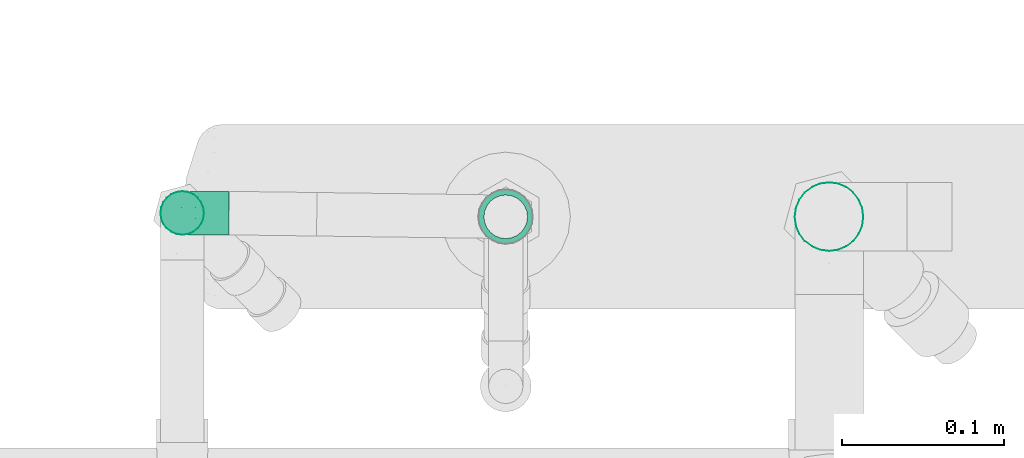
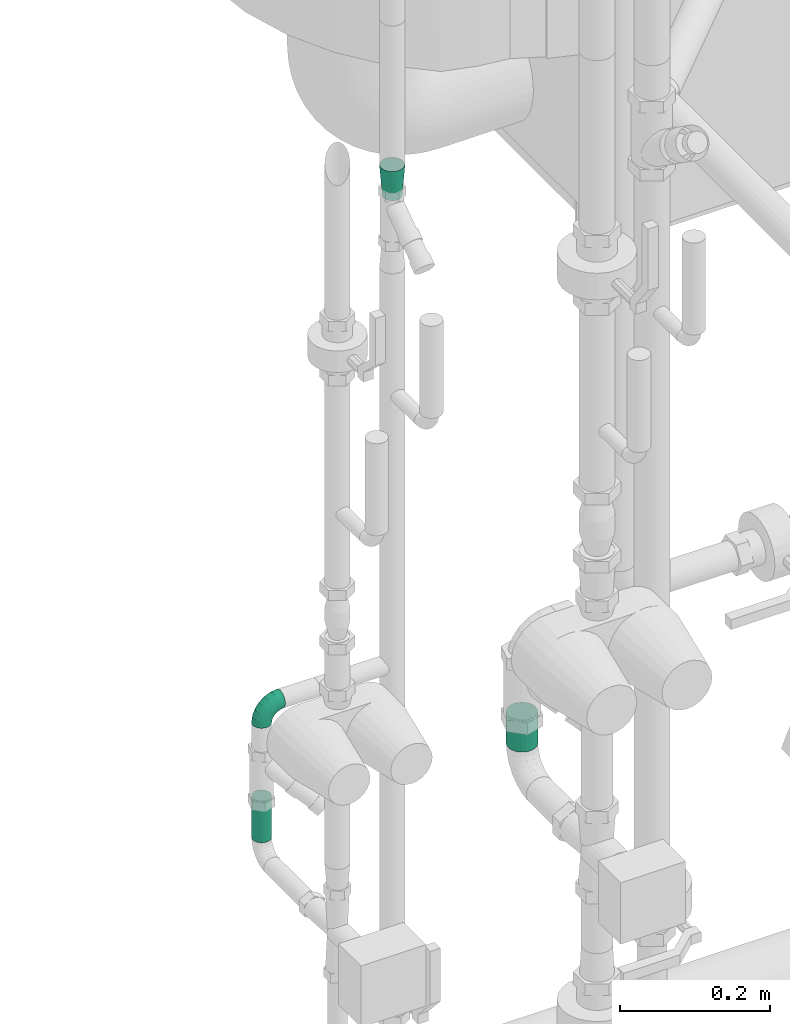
# One storey, part 339 of 374: 3 flow segments, 1 flow fitting.
"""IFC2X3 building model written with IfcOpenShell, lengths in metres."""

from ifc_helpers import new_model, si_unit, direction, origin, place, context, subcontext, project, spatial, open_shell, surface_model, source, transform, mapped, element, save


model = new_model("IFC2X3")

# Units and contexts
model_context = context("Model", 3, precision=1e-05, world=origin(), true_north=direction((-0.4480736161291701, 0.8939966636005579)))
body_context = subcontext(model_context, "Body", "Model", "MODEL_VIEW")
ifc_project = project(units=[si_unit("LENGTHUNIT", "METRE"), si_unit("AREAUNIT", "SQUARE_METRE"), si_unit("VOLUMEUNIT", "CUBIC_METRE"), si_unit("PLANEANGLEUNIT", "RADIAN"), si_unit("THERMODYNAMICTEMPERATUREUNIT", "KELVIN"), si_unit("MASSUNIT", "GRAM", prefix="KILO"), si_unit("TIMEUNIT", "SECOND")], contexts=[model_context])

# Site, building, storey
site_placement = place(None, origin())
site = spatial("IfcSite", under=ifc_project, at=site_placement, Name="Site 1", CompositionType="ELEMENT")
building_placement = place(site_placement, origin())
building = spatial("IfcBuilding", under=site, at=building_placement, Name="Undefined", CompositionType="ELEMENT")
storey_placement = place(building_placement, origin())
storey = spatial("IfcBuildingStorey", under=building, at=storey_placement, Name="Rez de chauss\x8ee", CompositionType="ELEMENT", Elevation=0.0)

# Flow segment
shared_shape_1 = source(origin(), body_context, "Body", "SurfaceModel", [
    surface_model("IfcFaceBasedSurfaceModel", [(0.0, 0.005534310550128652, 0.0), (0.0, 0.0, 0.0), (0.05200554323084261, 0.0, 0.0), (0.05200554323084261, 0.00553431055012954, 0.0), (0.0, -0.00534573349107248, -0.0014323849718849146), (0.05200554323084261, -0.005345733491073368, -0.0014323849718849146), (0.0, -0.010138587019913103, -0.004199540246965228), (0.05200554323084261, -0.010138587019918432, -0.004199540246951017), (0.0, -0.01405193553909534, -0.008112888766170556), (0.05200554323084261, -0.014051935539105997, -0.008112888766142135), (0.0, -0.016819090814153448, -0.012905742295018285), (0.05200554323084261, -0.016819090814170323, -0.012905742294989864), (0.0, -0.018251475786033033, -0.018251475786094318), (0.05200554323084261, -0.018251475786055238, -0.01825147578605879), (0.0, -0.0182514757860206, -0.02378578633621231), (0.05200554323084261, -0.018251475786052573, -0.023785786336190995), (0.0, -0.01681909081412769, -0.029131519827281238), (0.05200554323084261, -0.016819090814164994, -0.029131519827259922), (0.0, -0.014051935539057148, -0.03392437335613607), (0.05200554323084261, -0.01405193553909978, -0.033924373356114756), (0.0, -0.010138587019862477, -0.037837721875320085), (0.05200554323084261, -0.010138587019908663, -0.037837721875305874), (0.0, -0.005345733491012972, -0.040604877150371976), (0.05200554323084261, -0.00534573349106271, -0.04060487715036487), (0.0, 6.4837024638e-14, -0.042037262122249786), (0.05200554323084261, 1.2434497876e-14, -0.042037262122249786), (0.0, 0.005534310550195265, -0.04203726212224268), (0.05200554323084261, 0.005534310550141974, -0.042037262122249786), (0.0, 0.010880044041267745, -0.04060487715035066), (0.05200554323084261, 0.01088004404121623, -0.04060487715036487), (0.0, 0.01567289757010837, -0.03783772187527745), (0.05200554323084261, 0.01567289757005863, -0.03783772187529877), (0.0, 0.019586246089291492, -0.033924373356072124), (0.05200554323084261, 0.01958624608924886, -0.03392437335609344), (0.0, 0.0223534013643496, -0.029131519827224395), (0.05200554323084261, 0.022353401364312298, -0.029131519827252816), (0.0, 0.02378578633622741, -0.023785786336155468), (0.05200554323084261, 0.023785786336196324, -0.02378578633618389), (0.0, 0.023785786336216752, -0.01825147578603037), (0.05200554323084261, 0.023785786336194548, -0.018251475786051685), (0.0, 0.022353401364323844, -0.012905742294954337), (0.05200554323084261, 0.022353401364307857, -0.012905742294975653), (0.0, 0.019586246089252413, -0.008112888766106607), (0.05200554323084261, 0.019586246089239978, -0.008112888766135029), (0.0, 0.015672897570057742, -0.004199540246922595), (0.05200554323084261, 0.015672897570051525, -0.004199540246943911), (0.0, 0.010880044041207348, -0.0014323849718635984), (0.05200554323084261, 0.010880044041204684, -0.0014323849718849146)], [open_shell([[[0, 1, 2, 3]], [[1, 4, 5, 2]], [[4, 6, 7, 5]], [[6, 8, 9, 7]], [[8, 10, 11, 9]], [[10, 12, 13, 11]], [[12, 14, 15, 13]], [[14, 16, 17, 15]], [[16, 18, 19, 17]], [[18, 20, 21, 19]], [[20, 22, 23, 21]], [[22, 24, 25, 23]], [[24, 26, 27, 25]], [[26, 28, 29, 27]], [[28, 30, 31, 29]], [[30, 32, 33, 31]], [[32, 34, 35, 33]], [[34, 36, 37, 35]], [[36, 38, 39, 37]], [[38, 40, 41, 39]], [[40, 42, 43, 41]], [[42, 44, 45, 43]], [[44, 46, 47, 45]], [[46, 0, 3, 47]]])]),
])
flow_segment_1_placement = place(storey_placement, origin())
element("IfcFlowSegment", 1, at=flow_segment_1_placement, inside=storey, Name="Tube acier d'après DIN 2448", ObjectType="Tube acier d'après DIN 2448", context=body_context, shape_type="MappedRepresentation", body=[
    mapped(shared_shape_1, transform((52.47803964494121, 10.923524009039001, 0.8197512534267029), x_axis=(0.0, 0.0, 1.0), y_axis=(0.13052619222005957, -0.9914448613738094, 0.0), z_axis=(0.9914448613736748, 0.13052619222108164, 0.0))),
])

# Flow fitting
shared_shape_2 = source(origin(), body_context, "Body", "SurfaceModel", [
    surface_model("IfcFaceBasedSurfaceModel", [(0.0, 0.0, 0.0), (0.0035111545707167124, 0.0, 0.0), (0.0035111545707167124, 0.0032802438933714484, 0.0), (-1.776356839e-15, 0.0032802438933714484, 7.105427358e-15), (0.006902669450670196, 0.0, -0.0009087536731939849), (0.006902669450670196, 0.0032802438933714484, -0.0009087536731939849), (0.009943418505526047, 0.0, -0.002664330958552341), (0.009943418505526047, 0.0032802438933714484, -0.002664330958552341), (0.01242617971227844, 0.0, -0.00514709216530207), (0.01242617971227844, 0.0032802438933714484, -0.00514709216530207), (0.014181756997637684, 0.0, -0.00818784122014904), (0.014181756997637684, 0.0032802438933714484, -0.00818784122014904), (0.01509051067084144, 0.0, -0.011579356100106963), (0.01509051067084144, 0.0032802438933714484, -0.011579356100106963), (0.015090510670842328, 0.0, -0.015090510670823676), (0.015090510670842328, 0.0032802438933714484, -0.015090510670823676), (0.014181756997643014, 0.0, -0.018482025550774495), (0.014181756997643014, 0.0032802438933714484, -0.018482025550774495), (0.01242617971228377, 0.0, -0.021522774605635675), (0.01242617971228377, 0.0032802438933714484, -0.021522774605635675), (0.009943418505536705, 0.0, -0.024005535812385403), (0.009943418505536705, 0.0032802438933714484, -0.024005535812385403), (0.006902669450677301, 0.0, -0.02576111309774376), (0.006902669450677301, 0.0032802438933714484, -0.02576111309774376), (0.0035111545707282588, 0.0, -0.02666986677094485), (0.0035111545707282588, 0.0032802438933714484, -0.02666986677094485), (0.0, 4.2632564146e-14, -0.026669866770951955), (9.769962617e-15, 0.0032802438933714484, -0.02666986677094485), (-0.003391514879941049, 0.0, -0.025761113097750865), (-0.003391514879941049, 0.0032802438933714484, -0.025761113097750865), (-0.006432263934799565, 0.0, -0.02400553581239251), (-0.006432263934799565, 0.0032802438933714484, -0.02400553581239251), (-0.008915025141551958, 0.0, -0.02152277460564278), (-0.008915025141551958, 0.0032802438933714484, -0.02152277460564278), (-0.010670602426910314, 0.0, -0.018482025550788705), (-0.010670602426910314, 0.0032802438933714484, -0.018482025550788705), (-0.011579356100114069, 0.0, -0.015090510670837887), (-0.011579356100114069, 0.0032802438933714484, -0.015090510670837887), (-0.011579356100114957, 0.0, -0.011579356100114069), (-0.011579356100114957, 0.0032802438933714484, -0.011579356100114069), (-0.010670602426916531, 0.0, -0.008187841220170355), (-0.010670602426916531, 0.0032802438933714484, -0.008187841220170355), (-0.008915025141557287, 0.0, -0.005147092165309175), (-0.008915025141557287, 0.0032802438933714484, -0.005147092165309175), (-0.006432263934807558, 0.0, -0.0026643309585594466), (-0.006432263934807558, 0.0032802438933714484, -0.0026643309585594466), (-0.003391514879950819, 0.0, -0.0009087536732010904), (-0.003391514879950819, 0.0032802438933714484, -0.0009087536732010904), (-0.014950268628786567, 0.045895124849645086, -0.011135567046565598), (-0.01495026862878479, 0.045895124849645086, -0.015534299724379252), (-0.013811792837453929, 0.045895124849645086, -0.006886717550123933), (-0.011612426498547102, 0.045895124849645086, -0.0030773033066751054), (-0.008502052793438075, 0.045895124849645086, 3.3070398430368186e-05), (-0.0046926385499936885, 0.045895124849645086, 0.0022324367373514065), (-0.00044378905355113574, 0.045895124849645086, 0.0033709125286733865), (0.003954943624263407, 0.045895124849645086, 0.0033709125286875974), (0.008203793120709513, 0.045895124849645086, 0.002232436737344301), (0.012013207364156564, 0.045895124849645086, 3.307039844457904e-05), (0.015123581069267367, 0.045895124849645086, -0.003077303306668), (0.017322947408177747, 0.045895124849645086, -0.006886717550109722), (0.018461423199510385, 0.045895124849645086, -0.011135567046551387), (0.018461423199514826, 0.045895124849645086, -0.015534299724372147), (0.017322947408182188, 0.045895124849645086, -0.01978314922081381), (0.015123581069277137, 0.045895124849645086, -0.02359256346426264), (0.012013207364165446, 0.045895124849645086, -0.026702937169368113), (0.00820379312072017, 0.045895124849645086, -0.02890230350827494), (0.00395494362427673, 0.045895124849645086, -0.03004077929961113), (-0.0004437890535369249, 0.045895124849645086, -0.03004077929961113), (-0.004692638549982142, 0.045895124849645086, -0.028902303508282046), (-0.008502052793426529, 0.045895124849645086, -0.026702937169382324), (-0.011612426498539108, 0.045895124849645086, -0.023592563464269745), (-0.013811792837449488, 0.045895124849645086, -0.019783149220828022), (0.0039549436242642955, 0.050000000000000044, 0.003370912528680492), (-0.00044378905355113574, 0.050000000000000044, 0.0033709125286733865), (0.008203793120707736, 0.050000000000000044, 0.002232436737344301), (0.0120132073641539, 0.04589512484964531, 3.3070398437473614e-05), (0.0120132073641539, 0.050000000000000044, 3.3070398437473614e-05), (0.015123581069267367, 0.050000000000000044, -0.003077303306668), (0.017322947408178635, 0.050000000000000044, -0.006886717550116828), (0.018461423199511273, 0.050000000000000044, -0.011135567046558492), (0.018461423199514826, 0.050000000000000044, -0.015534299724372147), (0.017322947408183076, 0.050000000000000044, -0.019783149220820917), (0.015123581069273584, 0.050000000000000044, -0.02359256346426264), (0.012013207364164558, 0.050000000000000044, -0.026702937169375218), (0.008203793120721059, 0.050000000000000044, -0.028902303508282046), (0.003954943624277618, 0.050000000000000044, -0.030040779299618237), (-0.0004437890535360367, 0.050000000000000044, -0.030040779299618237), (-0.004692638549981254, 0.050000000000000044, -0.02890230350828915), (-0.008502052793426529, 0.050000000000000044, -0.026702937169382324), (-0.01161242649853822, 0.050000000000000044, -0.02359256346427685), (-0.013811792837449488, 0.050000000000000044, -0.019783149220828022), (-0.014950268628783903, 0.050000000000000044, -0.015534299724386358), (-0.014950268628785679, 0.050000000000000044, -0.011135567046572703), (-0.013811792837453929, 0.050000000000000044, -0.006886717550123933), (-0.011612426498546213, 0.050000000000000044, -0.003077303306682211), (-0.008502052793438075, 0.050000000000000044, 3.3070398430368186e-05), (-0.0046926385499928, 0.050000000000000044, 0.002232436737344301)], [open_shell([[[0, 1, 2, 3]], [[1, 4, 5, 2]], [[4, 6, 7, 5]], [[6, 8, 9, 7]], [[8, 10, 11, 9]], [[10, 12, 13, 11]], [[12, 14, 15, 13]], [[14, 16, 17, 15]], [[16, 18, 19, 17]], [[18, 20, 21, 19]], [[20, 22, 23, 21]], [[22, 24, 25, 23]], [[24, 26, 27, 25]], [[26, 28, 29, 27]], [[28, 30, 31, 29]], [[30, 32, 33, 31]], [[32, 34, 35, 33]], [[34, 36, 37, 35]], [[36, 38, 39, 37]], [[38, 40, 41, 39]], [[40, 42, 43, 41]], [[42, 44, 45, 43]], [[44, 46, 47, 45]], [[46, 0, 3, 47]], [[37, 39, 48, 49]], [[39, 41, 50, 48]], [[41, 43, 51, 50]], [[43, 45, 52, 51]], [[45, 47, 53, 52]], [[47, 3, 54, 53]], [[3, 2, 55, 54]], [[2, 5, 56, 55]], [[5, 7, 57, 56]], [[7, 9, 58, 57]], [[9, 11, 59, 58]], [[11, 13, 60, 59]], [[13, 15, 61, 60]], [[15, 17, 62, 61]], [[17, 19, 63, 62]], [[19, 21, 64, 63]], [[21, 23, 65, 64]], [[23, 25, 66, 65]], [[25, 27, 67, 66]], [[27, 29, 68, 67]], [[29, 31, 69, 68]], [[31, 33, 70, 69]], [[33, 35, 71, 70]], [[35, 37, 49, 71]], [[54, 55, 72, 73]], [[55, 56, 74, 72]], [[56, 75, 76, 74]], [[75, 58, 77, 76]], [[58, 59, 78, 77]], [[59, 60, 79, 78]], [[60, 61, 80, 79]], [[61, 62, 81, 80]], [[62, 63, 82, 81]], [[63, 64, 83, 82]], [[64, 65, 84, 83]], [[65, 66, 85, 84]], [[66, 67, 86, 85]], [[67, 68, 87, 86]], [[68, 69, 88, 87]], [[69, 70, 89, 88]], [[70, 71, 90, 89]], [[71, 49, 91, 90]], [[49, 48, 92, 91]], [[48, 50, 93, 92]], [[50, 51, 94, 93]], [[51, 52, 95, 94]], [[52, 53, 96, 95]], [[53, 54, 73, 96]]])]),
])
flow_fitting_placement = place(storey_placement, origin())
element("IfcFlowFitting", 2, at=flow_fitting_placement, inside=storey, Name="Réduction", ObjectType="Réduction", context=body_context, shape_type="MappedRepresentation", body=[
    mapped(shared_shape_2, transform((52.271012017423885, 10.918037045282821, 1.782489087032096), x_axis=(-0.13052619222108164, 0.9914448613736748, 0.0), y_axis=(0.0, 0.0, 1.0), z_axis=(0.9914448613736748, 0.13052619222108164, 0.0))),
])

# Flow segments
shared_shape_3 = source(origin(), body_context, "Body", "SurfaceModel", [
    surface_model("IfcFaceBasedSurfaceModel", [(0.0, 0.0035111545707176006, 0.0), (0.0, 0.0, 0.0), (0.06770554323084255, 8.8817842e-16, 0.0), (0.06770554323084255, 0.003511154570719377, 7.105427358e-15), (0.0, -0.003391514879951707, -0.0009087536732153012), (0.06770554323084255, -0.003391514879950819, -0.0009087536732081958), (0.0, -0.006432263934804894, -0.0026643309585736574), (0.06770554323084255, -0.006432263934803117, -0.002664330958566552), (0.0, -0.00891502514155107, -0.005147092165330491), (0.06770554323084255, -0.008915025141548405, -0.005147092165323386), (0.0, -0.010670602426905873, -0.008187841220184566), (0.06770554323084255, -0.010670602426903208, -0.00818784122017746), (0.0, -0.011579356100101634, -0.01157935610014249), (0.06770554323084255, -0.01157935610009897, -0.011579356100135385), (0.0, -0.011579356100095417, -0.015090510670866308), (0.06770554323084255, -0.01157935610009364, -0.015090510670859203), (0.0, -0.010670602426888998, -0.018482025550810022), (0.06770554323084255, -0.010670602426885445, -0.018482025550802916), (0.0, -0.008915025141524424, -0.021522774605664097), (0.06770554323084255, -0.00891502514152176, -0.02152277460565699), (0.0, -0.006432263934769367, -0.02400553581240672), (0.06770554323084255, -0.00643226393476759, -0.024005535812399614), (0.0, -0.0033915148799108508, -0.025761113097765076), (0.06770554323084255, -0.003391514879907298, -0.02576111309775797), (0.0, 4.2632564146e-14, -0.026669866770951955), (0.06770554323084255, 4.5297099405e-14, -0.02666986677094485), (0.0, 0.0035111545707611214, -0.026669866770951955), (0.06770554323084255, 0.003511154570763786, -0.02666986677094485), (0.0, 0.006902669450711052, -0.02576111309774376), (0.06770554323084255, 0.0069026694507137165, -0.025761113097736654), (0.0, 0.00994341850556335, -0.024005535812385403), (0.06770554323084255, 0.00994341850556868, -0.024005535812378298), (0.0, 0.012426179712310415, -0.02152277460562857), (0.06770554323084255, 0.012426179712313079, -0.021522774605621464), (0.0, 0.014181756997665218, -0.018482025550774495), (0.06770554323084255, 0.014181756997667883, -0.01848202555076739), (0.0, 0.015090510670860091, -0.01509051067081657), (0.06770554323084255, 0.015090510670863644, -0.015090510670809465), (0.0, 0.015090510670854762, -0.011579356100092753), (0.06770554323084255, 0.015090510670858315, -0.011579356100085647), (0.0, 0.014181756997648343, -0.00818784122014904), (0.06770554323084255, 0.014181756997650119, -0.008187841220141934), (0.0, 0.012426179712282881, -0.005147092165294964), (0.06770554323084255, 0.012426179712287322, -0.005147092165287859), (0.0, 0.009943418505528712, -0.002664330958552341), (0.06770554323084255, 0.009943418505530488, -0.0026643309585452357), (0.0, 0.006902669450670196, -0.0009087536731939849), (0.06770554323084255, 0.006902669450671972, -0.0009087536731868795)], [open_shell([[[0, 1, 2, 3]], [[1, 4, 5, 2]], [[4, 6, 7, 5]], [[6, 8, 9, 7]], [[8, 10, 11, 9]], [[10, 12, 13, 11]], [[12, 14, 15, 13]], [[14, 16, 17, 15]], [[16, 18, 19, 17]], [[18, 20, 21, 19]], [[20, 22, 23, 21]], [[22, 24, 25, 23]], [[24, 26, 27, 25]], [[26, 28, 29, 27]], [[28, 30, 31, 29]], [[30, 32, 33, 31]], [[32, 34, 35, 33]], [[34, 36, 37, 35]], [[36, 38, 39, 37]], [[38, 40, 41, 39]], [[40, 42, 43, 41]], [[42, 44, 45, 43]], [[44, 46, 47, 45]], [[46, 0, 3, 47]]])]),
])
flow_segment_2_placement = place(storey_placement, origin())
element("IfcFlowSegment", 3, at=flow_segment_2_placement, inside=storey, Name="Tube acier d'après DIN 2448", ObjectType="Tube acier d'après DIN 2448", context=body_context, shape_type="MappedRepresentation", body=[
    mapped(shared_shape_3, transform((52.0445703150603, 10.916844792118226, 0.8053512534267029), x_axis=(0.0, 0.0, 1.0), y_axis=(-0.13052619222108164, 0.9914448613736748, 0.0), z_axis=(-0.9914448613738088, -0.13052619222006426, 0.0))),
])
shared_shape_4 = source(origin(), body_context, "Body", "SurfaceModel", [
    surface_model("IfcFaceBasedSurfaceModel", [(0.011081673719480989, 0.0, 0.0), (0.011021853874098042, 0.0035106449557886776, -8.8817842e-16), (5.981984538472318e-05, 0.003510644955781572, 0.0), (0.0, 0.0, 0.0), (-0.01052869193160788, 0.003877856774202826, -0.002813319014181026), (-0.010704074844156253, 0.00037121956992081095, -0.002844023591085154), (-0.02002209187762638, 0.0045872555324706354, -0.008248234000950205), (-0.020301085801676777, 0.001088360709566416, -0.00833825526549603), (-0.027773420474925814, 0.005590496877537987, -0.01593436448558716), (-0.028137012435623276, 0.002102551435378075, -0.01610827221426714), (-0.03325443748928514, 0.006819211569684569, -0.02534791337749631), (-0.03367784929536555, 0.003344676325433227, -0.025624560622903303), (-0.03609162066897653, 0.008189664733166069, -0.03584736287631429), (-0.03654599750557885, 0.004730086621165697, -0.036238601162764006), (0.01084647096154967, 0.006899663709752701, -0.000901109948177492), (0.00023520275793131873, 0.006899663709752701, -0.000901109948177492), (-0.010014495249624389, 0.007255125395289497, -0.003624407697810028), (-0.019204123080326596, 0.007941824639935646, -0.008885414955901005), (-0.02670742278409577, 0.008912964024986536, -0.016325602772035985), (-0.032013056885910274, 0.010102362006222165, -0.02543793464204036), (-0.03475945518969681, 0.011428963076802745, -0.03560142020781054), (0.010567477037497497, 0.00993610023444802, -0.0026419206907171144), (0.0005141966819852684, 0.009936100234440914, -0.0026419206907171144), (-0.009196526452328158, 0.010272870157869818, -0.005222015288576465), (-0.01790292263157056, 0.010923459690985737, -0.010206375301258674), (-0.025011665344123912, 0.011843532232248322, -0.017255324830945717), (-0.03003830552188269, 0.012970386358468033, -0.025888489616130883), (-0.032640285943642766, 0.014227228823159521, -0.03551753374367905), (0.01020388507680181, 0.012413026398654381, -0.005103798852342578), (0.0008777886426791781, 0.012413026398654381, -0.005103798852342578), (-0.008130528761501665, 0.012725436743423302, -0.007497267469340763), (-0.01620716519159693, 0.013328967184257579, -0.012121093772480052), (-0.022801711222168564, 0.014182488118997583, -0.018660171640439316), (-0.02746475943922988, 0.015227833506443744, -0.02666887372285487), (-0.029878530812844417, 0.01639376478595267, -0.03560142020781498), (0.009780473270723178, 0.014161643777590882, -0.0081189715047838), (0.001301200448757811, 0.014161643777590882, -0.0081189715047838), (-0.006889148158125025, 0.014445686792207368, -0.01029510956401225), (-0.014232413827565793, 0.014994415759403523, -0.014499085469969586), (-0.020228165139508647, 0.01577043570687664, -0.020444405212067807), (-0.024467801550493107, 0.016720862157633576, -0.027725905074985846), (-0.026662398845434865, 0.017780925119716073, -0.035847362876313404), (0.009326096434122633, 0.015062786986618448, -0.011481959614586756), (0.0017555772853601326, 0.015062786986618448, -0.011481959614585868), (-0.005556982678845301, 0.015316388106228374, -0.013424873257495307), (-0.01211324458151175, 0.015806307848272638, -0.017178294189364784), (-0.017466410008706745, 0.016499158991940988, -0.02248643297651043), (-0.02125166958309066, 0.01734772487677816, -0.02898754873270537), (-0.023211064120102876, 0.01829417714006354, -0.03623860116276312), (0.008871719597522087, 0.015055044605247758, -0.01496358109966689), (0.0022099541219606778, 0.015055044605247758, -0.014963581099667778), (-0.004224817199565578, 0.015278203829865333, -0.01667327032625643), (-0.009994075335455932, 0.015709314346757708, -0.01997613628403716), (-0.014704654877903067, 0.01631899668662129, -0.024647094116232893), (-0.01803553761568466, 0.017065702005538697, -0.03036782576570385), (-0.019759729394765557, 0.017898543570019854, -0.036748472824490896), (0.008448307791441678, 0.014138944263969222, -0.018326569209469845), (0.0026333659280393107, 0.014138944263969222, -0.018326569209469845), (-0.002983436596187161, 0.014333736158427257, -0.019818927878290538), (-0.008019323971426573, 0.014710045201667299, -0.022701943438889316), (-0.012131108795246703, 0.015242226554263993, -0.02677914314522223), (-0.01503857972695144, 0.01589401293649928, -0.03177267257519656), (-0.016543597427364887, 0.01662098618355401, -0.03734223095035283), (0.008084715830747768, 0.012376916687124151, -0.021341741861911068), (0.002996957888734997, 0.012376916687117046, -0.021341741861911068), (-0.0019174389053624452, 0.012547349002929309, -0.022647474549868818), (-0.00632356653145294, 0.012876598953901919, -0.025169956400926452), (-0.009921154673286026, 0.013342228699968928, -0.028737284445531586), (-0.012465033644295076, 0.013912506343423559, -0.033106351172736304), (-0.013781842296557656, 0.01454856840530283, -0.03797941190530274), (0.007805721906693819, 0.009889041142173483, -0.02380362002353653), (0.00327595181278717, 0.009889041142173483, -0.02380362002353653), (-0.001099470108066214, 0.010040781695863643, -0.024966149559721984), (-0.005022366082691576, 0.010333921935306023, -0.027211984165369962), (-0.008225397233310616, 0.010748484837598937, -0.030388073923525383), (-0.010490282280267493, 0.01125621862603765, -0.034277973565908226), (-0.011662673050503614, 0.01182252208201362, -0.03861659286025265), (0.007630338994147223, 0.0068448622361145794, -0.025544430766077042), (0.003451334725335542, 0.0068448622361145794, -0.025544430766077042), (-0.0005852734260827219, 0.006984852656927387, -0.02661693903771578), (-0.004204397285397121, 0.0072552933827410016, -0.02868886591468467), (-0.007159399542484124, 0.007637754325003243, -0.03161901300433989), (-0.009248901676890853, 0.008106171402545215, -0.03520769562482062), (-0.010330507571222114, 0.008628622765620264, -0.03921035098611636), (0.0075705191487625, 0.0034518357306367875, -0.026445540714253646), (0.003511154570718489, 0.0034518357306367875, -0.026445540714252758), (-0.0004098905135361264, 0.0035878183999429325, -0.027487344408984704), (-0.003925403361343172, 0.0038505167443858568, -0.02949995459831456), (-0.006795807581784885, 0.0042220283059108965, -0.03234621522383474), (-0.008825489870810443, 0.004677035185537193, -0.03583215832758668), (-0.009876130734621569, 0.0051845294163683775, -0.03972022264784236), (0.007630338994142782, -5.8809225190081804e-05, -0.026445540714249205), (0.003451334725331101, -5.8809225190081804e-05, -0.0264455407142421), (-0.0005852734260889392, 8.118119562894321e-05, -0.027518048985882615), (-0.00420439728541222, 0.00035162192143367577, -0.02958997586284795), (-0.007159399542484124, 0.0007340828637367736, -0.03252012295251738), (-0.009248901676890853, 0.0012024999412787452, -0.036108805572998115), (-0.010330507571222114, 0.0017249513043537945, -0.04011146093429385), (0.007805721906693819, -0.0034478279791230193, -0.02554443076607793), (0.00327595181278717, -0.0034478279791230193, -0.02554443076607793), (-0.001099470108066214, -0.0032960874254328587, -0.026706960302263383), (-0.005022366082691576, -0.003002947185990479, -0.02895279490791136), (-0.008225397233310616, -0.0025883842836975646, -0.03212888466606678), (-0.010490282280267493, -0.002080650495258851, -0.036018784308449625), (-0.011662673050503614, -0.0015143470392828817, -0.04035740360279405), (0.008084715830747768, -0.006484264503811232, -0.023803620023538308), (0.002996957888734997, -0.006484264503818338, -0.023803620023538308), (-0.0019174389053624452, -0.006313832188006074, -0.025109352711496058), (-0.00632356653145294, -0.0059845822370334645, -0.027631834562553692), (-0.009921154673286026, -0.005518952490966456, -0.031199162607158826), (-0.012465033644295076, -0.004948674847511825, -0.035568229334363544), (-0.013781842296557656, -0.0043126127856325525, -0.04044129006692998), (0.008448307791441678, -0.008961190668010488, -0.021341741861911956), (0.0026333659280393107, -0.008961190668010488, -0.021341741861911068), (-0.002983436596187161, -0.008766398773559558, -0.02283410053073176), (-0.008019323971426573, -0.008390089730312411, -0.025717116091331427), (-0.012131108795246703, -0.007857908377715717, -0.02979431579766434), (-0.01503857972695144, -0.00720612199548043, -0.03478784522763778), (-0.016543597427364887, -0.0064791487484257, -0.04035740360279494), (0.008871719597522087, -0.01070980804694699, -0.018326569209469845), (0.0022099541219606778, -0.01070980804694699, -0.018326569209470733), (-0.004224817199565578, -0.010486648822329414, -0.020036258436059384), (-0.009994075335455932, -0.01005553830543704, -0.023339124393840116), (-0.014704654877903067, -0.009445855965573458, -0.02801008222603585), (-0.01803553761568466, -0.00869915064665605, -0.033730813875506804), (-0.019759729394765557, -0.007866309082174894, -0.04011146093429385), (0.009326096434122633, -0.011610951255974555, -0.014963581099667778), (0.0017555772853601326, -0.011610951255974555, -0.014963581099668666), (-0.005556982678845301, -0.01135735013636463, -0.016906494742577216), (-0.01211324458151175, -0.010867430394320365, -0.020659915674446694), (-0.017466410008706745, -0.010174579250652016, -0.025968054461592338), (-0.02125166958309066, -0.009326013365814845, -0.03246917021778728), (-0.023211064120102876, -0.008379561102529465, -0.039720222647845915), (0.009780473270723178, -0.01160320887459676, -0.011481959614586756), (0.001301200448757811, -0.011603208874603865, -0.011481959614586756), (-0.006889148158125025, -0.011319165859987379, -0.013658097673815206), (-0.014232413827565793, -0.010770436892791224, -0.01786207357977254), (-0.020228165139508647, -0.009994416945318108, -0.023807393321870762), (-0.024467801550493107, -0.009043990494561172, -0.0310888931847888), (-0.026662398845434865, -0.007983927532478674, -0.03921035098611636), (0.01020388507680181, -0.010687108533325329, -0.008118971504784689), (0.0008777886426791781, -0.010687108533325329, -0.008118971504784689), (-0.008130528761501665, -0.010374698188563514, -0.010512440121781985), (-0.01620716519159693, -0.009771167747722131, -0.015136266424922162), (-0.022801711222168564, -0.008917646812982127, -0.021675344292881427), (-0.02746475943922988, -0.007872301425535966, -0.02968404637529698), (-0.029878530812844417, -0.006706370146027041, -0.038616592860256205), (0.010567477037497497, -0.008925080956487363, -0.0051037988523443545), (0.0005141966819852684, -0.008925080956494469, -0.0051037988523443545), (-0.009196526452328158, -0.008588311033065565, -0.007683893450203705), (-0.01790292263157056, -0.007937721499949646, -0.012668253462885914), (-0.025011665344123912, -0.007017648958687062, -0.019717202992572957), (-0.03003830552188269, -0.00589079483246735, -0.028350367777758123), (-0.032640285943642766, -0.004633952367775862, -0.03797941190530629), (0.01084647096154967, -0.0064372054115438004, -0.002641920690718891), (0.00023520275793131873, -0.0064372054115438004, -0.002641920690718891), (-0.010014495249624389, -0.006081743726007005, -0.005365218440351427), (-0.019204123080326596, -0.005395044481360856, -0.010626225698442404), (-0.02670742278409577, -0.004423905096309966, -0.018066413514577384), (-0.032013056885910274, -0.0032345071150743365, -0.02717874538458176), (-0.03475945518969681, -0.0019079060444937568, -0.03734223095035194), (0.011021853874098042, -0.003393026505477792, -0.0009011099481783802), (5.981984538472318e-05, -0.0033930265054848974, -0.000901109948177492), (-0.01052869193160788, -0.0030258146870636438, -0.003714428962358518), (-0.02002209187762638, -0.002316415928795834, -0.009149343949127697), (-0.027773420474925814, -0.0013131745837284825, -0.016835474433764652), (-0.03325443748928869, -8.445989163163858e-05, -0.026249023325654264), (-0.03609162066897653, 0.0012859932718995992, -0.036748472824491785)], [open_shell([[[0, 1, 2, 3]], [[3, 2, 4, 5]], [[5, 4, 6, 7]], [[7, 6, 8, 9]], [[9, 8, 10, 11]], [[11, 10, 12, 13]], [[1, 14, 15, 2]], [[2, 15, 16, 4]], [[4, 16, 17, 6]], [[6, 17, 18, 8]], [[8, 18, 19, 10]], [[10, 19, 20, 12]], [[14, 21, 22, 15]], [[15, 22, 23, 16]], [[16, 23, 24, 17]], [[17, 24, 25, 18]], [[18, 25, 26, 19]], [[19, 26, 27, 20]], [[21, 28, 29, 22]], [[22, 29, 30, 23]], [[23, 30, 31, 24]], [[24, 31, 32, 25]], [[25, 32, 33, 26]], [[26, 33, 34, 27]], [[28, 35, 36, 29]], [[29, 36, 37, 30]], [[30, 37, 38, 31]], [[31, 38, 39, 32]], [[32, 39, 40, 33]], [[33, 40, 41, 34]], [[35, 42, 43, 36]], [[36, 43, 44, 37]], [[37, 44, 45, 38]], [[38, 45, 46, 39]], [[39, 46, 47, 40]], [[40, 47, 48, 41]], [[42, 49, 50, 43]], [[43, 50, 51, 44]], [[44, 51, 52, 45]], [[45, 52, 53, 46]], [[46, 53, 54, 47]], [[47, 54, 55, 48]], [[49, 56, 57, 50]], [[50, 57, 58, 51]], [[51, 58, 59, 52]], [[52, 59, 60, 53]], [[53, 60, 61, 54]], [[54, 61, 62, 55]], [[56, 63, 64, 57]], [[57, 64, 65, 58]], [[58, 65, 66, 59]], [[59, 66, 67, 60]], [[60, 67, 68, 61]], [[61, 68, 69, 62]], [[63, 70, 71, 64]], [[64, 71, 72, 65]], [[65, 72, 73, 66]], [[66, 73, 74, 67]], [[67, 74, 75, 68]], [[68, 75, 76, 69]], [[70, 77, 78, 71]], [[71, 78, 79, 72]], [[72, 79, 80, 73]], [[73, 80, 81, 74]], [[74, 81, 82, 75]], [[75, 82, 83, 76]], [[77, 84, 85, 78]], [[78, 85, 86, 79]], [[79, 86, 87, 80]], [[80, 87, 88, 81]], [[81, 88, 89, 82]], [[82, 89, 90, 83]], [[84, 91, 92, 85]], [[85, 92, 93, 86]], [[86, 93, 94, 87]], [[87, 94, 95, 88]], [[88, 95, 96, 89]], [[89, 96, 97, 90]], [[91, 98, 99, 92]], [[92, 99, 100, 93]], [[93, 100, 101, 94]], [[94, 101, 102, 95]], [[95, 102, 103, 96]], [[96, 103, 104, 97]], [[98, 105, 106, 99]], [[99, 106, 107, 100]], [[100, 107, 108, 101]], [[101, 108, 109, 102]], [[102, 109, 110, 103]], [[103, 110, 111, 104]], [[105, 112, 113, 106]], [[106, 113, 114, 107]], [[107, 114, 115, 108]], [[108, 115, 116, 109]], [[109, 116, 117, 110]], [[110, 117, 118, 111]], [[112, 119, 120, 113]], [[113, 120, 121, 114]], [[114, 121, 122, 115]], [[115, 122, 123, 116]], [[116, 123, 124, 117]], [[117, 124, 125, 118]], [[119, 126, 127, 120]], [[120, 127, 128, 121]], [[121, 128, 129, 122]], [[122, 129, 130, 123]], [[123, 130, 131, 124]], [[124, 131, 132, 125]], [[126, 133, 134, 127]], [[127, 134, 135, 128]], [[128, 135, 136, 129]], [[129, 136, 137, 130]], [[130, 137, 138, 131]], [[131, 138, 139, 132]], [[133, 140, 141, 134]], [[134, 141, 142, 135]], [[135, 142, 143, 136]], [[136, 143, 144, 137]], [[137, 144, 145, 138]], [[138, 145, 146, 139]], [[140, 147, 148, 141]], [[141, 148, 149, 142]], [[142, 149, 150, 143]], [[143, 150, 151, 144]], [[144, 151, 152, 145]], [[145, 152, 153, 146]], [[147, 154, 155, 148]], [[148, 155, 156, 149]], [[149, 156, 157, 150]], [[150, 157, 158, 151]], [[151, 158, 159, 152]], [[152, 159, 160, 153]], [[154, 161, 162, 155]], [[155, 162, 163, 156]], [[156, 163, 164, 157]], [[157, 164, 165, 158]], [[158, 165, 166, 159]], [[159, 166, 167, 160]], [[161, 0, 3, 162]], [[162, 3, 5, 163]], [[163, 5, 7, 164]], [[164, 7, 9, 165]], [[165, 9, 11, 166]], [[166, 11, 13, 167]]])]),
])
flow_segment_3_placement = place(storey_placement, origin())
element("IfcFlowSegment", 4, at=flow_segment_3_placement, inside=storey, Name="Tube coudé", ObjectType="Tube coudé", context=body_context, shape_type="MappedRepresentation", body=[
    mapped(shared_shape_4, transform((52.04555846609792, 10.920325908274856, 1.002859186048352), x_axis=(-0.13052619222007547, 0.0, -0.9914448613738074), y_axis=(0.12832103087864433, -0.9915887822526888, -0.016893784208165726), z_axis=(-0.9831056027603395, -0.12942830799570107, 0.1294283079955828))),
])

save(model, "model.ifc")
